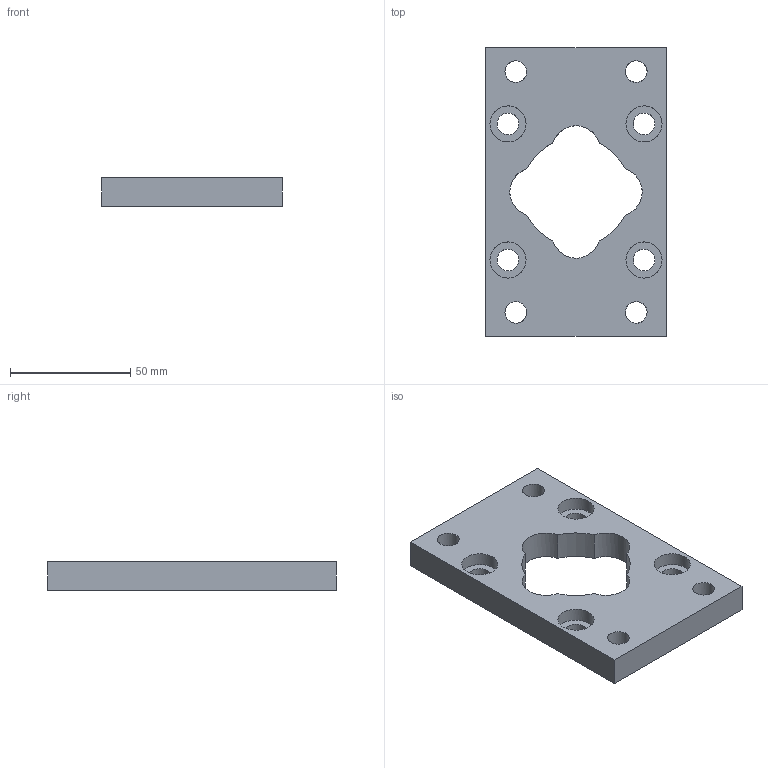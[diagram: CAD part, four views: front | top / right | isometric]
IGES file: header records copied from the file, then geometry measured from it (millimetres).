
Global section: file name: 1325_063_03F; native system: Autodesk Inventor 2014; preprocessor: unknown; author: A. Manieri; organization: Pneumax S.p.A.; date: 20161007.115416; units: millimetre
Bounding box: 75 x 120 x 12 mm (x, y, z)
Volume: 76794.4 mm3; surface area: 23006.9 mm2
Topology: 1 solids, 1 shells, 30 faces, 80 edges, 56 vertices
Faces by surface type: bspline 30
